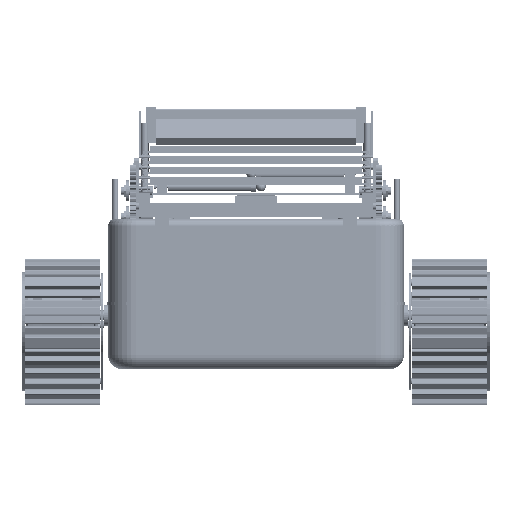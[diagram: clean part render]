
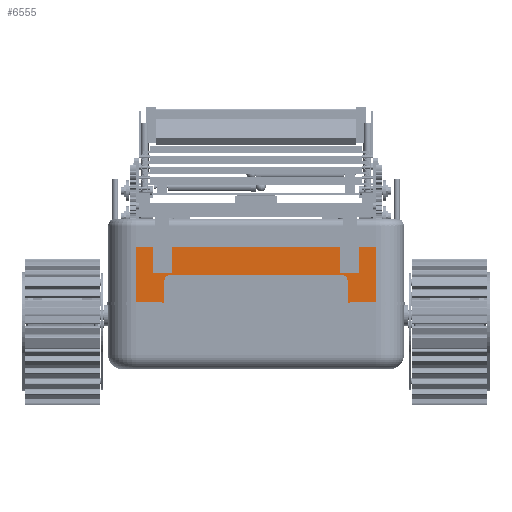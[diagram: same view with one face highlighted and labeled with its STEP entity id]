
A CAD part, left-side view. The second image highlights one B-rep face of the part: STEP entity #6555.
In plain terms, the highlighted planar face has unit normal (-1, 0, 0).
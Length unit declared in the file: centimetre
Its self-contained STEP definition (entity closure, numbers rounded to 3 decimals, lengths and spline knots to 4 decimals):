
#6555 = ADVANCED_FACE('',(#6556),#6570,.F.);
#6556 = FACE_BOUND('',#6557,.F.);
#6557 = EDGE_LOOP('',(#6558,#6593,#6619,#6645,#6671,#6697,#6723,#6751));
#6558 = ORIENTED_EDGE('',*,*,#6559,.F.);
#6559 = EDGE_CURVE('',#6560,#6562,#6564,.T.);
#6560 = VERTEX_POINT('',#6561);
#6561 = CARTESIAN_POINT('',(4.,-51.,43.));
#6562 = VERTEX_POINT('',#6563);
#6563 = CARTESIAN_POINT('',(4.,-51.,67.));
#6564 = SURFACE_CURVE('',#6565,(#6569,#6581),.PCURVE_S1.);
#6565 = LINE('',#6566,#6567);
#6566 = CARTESIAN_POINT('',(4.,-51.,15.));
#6567 = VECTOR('',#6568,0.1);
#6568 = DIRECTION('',(0.,0.,1.));
#6569 = PCURVE('',#6570,#6575);
#6570 = PLANE('',#6571);
#6571 = AXIS2_PLACEMENT_3D('',#6572,#6573,#6574);
#6572 = CARTESIAN_POINT('',(4.,-63.,15.));
#6573 = DIRECTION('',(1.,0.,0.));
#6574 = DIRECTION('',(0.,0.,1.));
#6575 = DEFINITIONAL_REPRESENTATION('',(#6576),#6580);
#6576 = LINE('',#6577,#6578);
#6577 = CARTESIAN_POINT('',(0.,-12.));
#6578 = VECTOR('',#6579,1.);
#6579 = DIRECTION('',(1.,0.));
#6580 = ( GEOMETRIC_REPRESENTATION_CONTEXT(2) 
PARAMETRIC_REPRESENTATION_CONTEXT() REPRESENTATION_CONTEXT('2D SPACE',''
  ) );
#6581 = PCURVE('',#6582,#6587);
#6582 = CYLINDRICAL_SURFACE('',#6583,12.);
#6583 = AXIS2_PLACEMENT_3D('',#6584,#6585,#6586);
#6584 = CARTESIAN_POINT('',(16.,-51.,15.));
#6585 = DIRECTION('',(0.,0.,1.));
#6586 = DIRECTION('',(-1.,-0.,0.));
#6587 = DEFINITIONAL_REPRESENTATION('',(#6588),#6592);
#6588 = LINE('',#6589,#6590);
#6589 = CARTESIAN_POINT('',(0.,0.));
#6590 = VECTOR('',#6591,1.);
#6591 = DIRECTION('',(0.,1.));
#6592 = ( GEOMETRIC_REPRESENTATION_CONTEXT(2) 
PARAMETRIC_REPRESENTATION_CONTEXT() REPRESENTATION_CONTEXT('2D SPACE',''
  ) );
#6593 = ORIENTED_EDGE('',*,*,#6594,.F.);
#6594 = EDGE_CURVE('',#6595,#6560,#6597,.T.);
#6595 = VERTEX_POINT('',#6596);
#6596 = CARTESIAN_POINT('',(4.,-38.,43.));
#6597 = SURFACE_CURVE('',#6598,(#6602,#6608),.PCURVE_S1.);
#6598 = LINE('',#6599,#6600);
#6599 = CARTESIAN_POINT('',(4.,-66.5,43.));
#6600 = VECTOR('',#6601,0.1);
#6601 = DIRECTION('',(0.,-1.,0.));
#6602 = PCURVE('',#6570,#6603);
#6603 = DEFINITIONAL_REPRESENTATION('',(#6604),#6607);
#6604 = B_SPLINE_CURVE_WITH_KNOTS('',1,(#6605,#6606),.UNSPECIFIED.,.F.,
  .F.,(2,2),(-1175.,-155.),.PIECEWISE_BEZIER_KNOTS.);
#6605 = CARTESIAN_POINT('',(28.,-114.));
#6606 = CARTESIAN_POINT('',(28.,-12.));
#6607 = ( GEOMETRIC_REPRESENTATION_CONTEXT(2) 
PARAMETRIC_REPRESENTATION_CONTEXT() REPRESENTATION_CONTEXT('2D SPACE',''
  ) );
#6608 = PCURVE('',#6609,#6614);
#6609 = PLANE('',#6610);
#6610 = AXIS2_PLACEMENT_3D('',#6611,#6612,#6613);
#6611 = CARTESIAN_POINT('',(0.,-70.,43.));
#6612 = DIRECTION('',(0.,0.,1.));
#6613 = DIRECTION('',(1.,0.,0.));
#6614 = DEFINITIONAL_REPRESENTATION('',(#6615),#6618);
#6615 = B_SPLINE_CURVE_WITH_KNOTS('',1,(#6616,#6617),.UNSPECIFIED.,.F.,
  .F.,(2,2),(-1175.,-155.),.PIECEWISE_BEZIER_KNOTS.);
#6616 = CARTESIAN_POINT('',(4.,121.));
#6617 = CARTESIAN_POINT('',(4.,19.));
#6618 = ( GEOMETRIC_REPRESENTATION_CONTEXT(2) 
PARAMETRIC_REPRESENTATION_CONTEXT() REPRESENTATION_CONTEXT('2D SPACE',''
  ) );
#6619 = ORIENTED_EDGE('',*,*,#6620,.T.);
#6620 = EDGE_CURVE('',#6595,#6621,#6623,.T.);
#6621 = VERTEX_POINT('',#6622);
#6622 = CARTESIAN_POINT('',(4.,-38.,54.));
#6623 = SURFACE_CURVE('',#6624,(#6628,#6634),.PCURVE_S1.);
#6624 = LINE('',#6625,#6626);
#6625 = CARTESIAN_POINT('',(4.,-38.,22.5));
#6626 = VECTOR('',#6627,0.1);
#6627 = DIRECTION('',(0.,0.,1.));
#6628 = PCURVE('',#6570,#6629);
#6629 = DEFINITIONAL_REPRESENTATION('',(#6630),#6633);
#6630 = B_SPLINE_CURVE_WITH_KNOTS('',1,(#6631,#6632),.UNSPECIFIED.,.F.,
  .F.,(2,2),(75.,315.),.PIECEWISE_BEZIER_KNOTS.);
#6631 = CARTESIAN_POINT('',(15.,-25.));
#6632 = CARTESIAN_POINT('',(39.,-25.));
#6633 = ( GEOMETRIC_REPRESENTATION_CONTEXT(2) 
PARAMETRIC_REPRESENTATION_CONTEXT() REPRESENTATION_CONTEXT('2D SPACE',''
  ) );
#6634 = PCURVE('',#6635,#6640);
#6635 = PLANE('',#6636);
#6636 = AXIS2_PLACEMENT_3D('',#6637,#6638,#6639);
#6637 = CARTESIAN_POINT('',(3.5,-38.,30.));
#6638 = DIRECTION('',(0.,1.,0.));
#6639 = DIRECTION('',(0.,0.,1.));
#6640 = DEFINITIONAL_REPRESENTATION('',(#6641),#6644);
#6641 = B_SPLINE_CURVE_WITH_KNOTS('',1,(#6642,#6643),.UNSPECIFIED.,.F.,
  .F.,(2,2),(75.,315.),.PIECEWISE_BEZIER_KNOTS.);
#6642 = CARTESIAN_POINT('',(0.,0.5));
#6643 = CARTESIAN_POINT('',(24.,0.5));
#6644 = ( GEOMETRIC_REPRESENTATION_CONTEXT(2) 
PARAMETRIC_REPRESENTATION_CONTEXT() REPRESENTATION_CONTEXT('2D SPACE',''
  ) );
#6645 = ORIENTED_EDGE('',*,*,#6646,.F.);
#6646 = EDGE_CURVE('',#6647,#6621,#6649,.T.);
#6647 = VERTEX_POINT('',#6648);
#6648 = CARTESIAN_POINT('',(4.,38.,54.));
#6649 = SURFACE_CURVE('',#6650,(#6654,#6660),.PCURVE_S1.);
#6650 = LINE('',#6651,#6652);
#6651 = CARTESIAN_POINT('',(4.,-50.5,54.));
#6652 = VECTOR('',#6653,0.1);
#6653 = DIRECTION('',(0.,-1.,0.));
#6654 = PCURVE('',#6570,#6655);
#6655 = DEFINITIONAL_REPRESENTATION('',(#6656),#6659);
#6656 = B_SPLINE_CURVE_WITH_KNOTS('',1,(#6657,#6658),.UNSPECIFIED.,.F.,
  .F.,(2,2),(-885.,-125.),.PIECEWISE_BEZIER_KNOTS.);
#6657 = CARTESIAN_POINT('',(39.,-101.));
#6658 = CARTESIAN_POINT('',(39.,-25.));
#6659 = ( GEOMETRIC_REPRESENTATION_CONTEXT(2) 
PARAMETRIC_REPRESENTATION_CONTEXT() REPRESENTATION_CONTEXT('2D SPACE',''
  ) );
#6660 = PCURVE('',#6661,#6666);
#6661 = PLANE('',#6662);
#6662 = AXIS2_PLACEMENT_3D('',#6663,#6664,#6665);
#6663 = CARTESIAN_POINT('',(3.5,-38.,54.));
#6664 = DIRECTION('',(0.,0.,1.));
#6665 = DIRECTION('',(1.,0.,0.));
#6666 = DEFINITIONAL_REPRESENTATION('',(#6667),#6670);
#6667 = B_SPLINE_CURVE_WITH_KNOTS('',1,(#6668,#6669),.UNSPECIFIED.,.F.,
  .F.,(2,2),(-885.,-125.),.PIECEWISE_BEZIER_KNOTS.);
#6668 = CARTESIAN_POINT('',(0.5,76.));
#6669 = CARTESIAN_POINT('',(0.5,0.));
#6670 = ( GEOMETRIC_REPRESENTATION_CONTEXT(2) 
PARAMETRIC_REPRESENTATION_CONTEXT() REPRESENTATION_CONTEXT('2D SPACE',''
  ) );
#6671 = ORIENTED_EDGE('',*,*,#6672,.F.);
#6672 = EDGE_CURVE('',#6673,#6647,#6675,.T.);
#6673 = VERTEX_POINT('',#6674);
#6674 = CARTESIAN_POINT('',(4.,38.,43.));
#6675 = SURFACE_CURVE('',#6676,(#6680,#6686),.PCURVE_S1.);
#6676 = LINE('',#6677,#6678);
#6677 = CARTESIAN_POINT('',(4.,38.,22.5));
#6678 = VECTOR('',#6679,0.1);
#6679 = DIRECTION('',(0.,0.,1.));
#6680 = PCURVE('',#6570,#6681);
#6681 = DEFINITIONAL_REPRESENTATION('',(#6682),#6685);
#6682 = B_SPLINE_CURVE_WITH_KNOTS('',1,(#6683,#6684),.UNSPECIFIED.,.F.,
  .F.,(2,2),(75.,315.),.PIECEWISE_BEZIER_KNOTS.);
#6683 = CARTESIAN_POINT('',(15.,-101.));
#6684 = CARTESIAN_POINT('',(39.,-101.));
#6685 = ( GEOMETRIC_REPRESENTATION_CONTEXT(2) 
PARAMETRIC_REPRESENTATION_CONTEXT() REPRESENTATION_CONTEXT('2D SPACE',''
  ) );
#6686 = PCURVE('',#6687,#6692);
#6687 = PLANE('',#6688);
#6688 = AXIS2_PLACEMENT_3D('',#6689,#6690,#6691);
#6689 = CARTESIAN_POINT('',(3.5,38.,30.));
#6690 = DIRECTION('',(0.,1.,0.));
#6691 = DIRECTION('',(0.,0.,1.));
#6692 = DEFINITIONAL_REPRESENTATION('',(#6693),#6696);
#6693 = B_SPLINE_CURVE_WITH_KNOTS('',1,(#6694,#6695),.UNSPECIFIED.,.F.,
  .F.,(2,2),(75.,315.),.PIECEWISE_BEZIER_KNOTS.);
#6694 = CARTESIAN_POINT('',(0.,0.5));
#6695 = CARTESIAN_POINT('',(24.,0.5));
#6696 = ( GEOMETRIC_REPRESENTATION_CONTEXT(2) 
PARAMETRIC_REPRESENTATION_CONTEXT() REPRESENTATION_CONTEXT('2D SPACE',''
  ) );
#6697 = ORIENTED_EDGE('',*,*,#6698,.F.);
#6698 = EDGE_CURVE('',#6699,#6673,#6701,.T.);
#6699 = VERTEX_POINT('',#6700);
#6700 = CARTESIAN_POINT('',(4.,51.,43.));
#6701 = SURFACE_CURVE('',#6702,(#6706,#6712),.PCURVE_S1.);
#6702 = LINE('',#6703,#6704);
#6703 = CARTESIAN_POINT('',(4.,-66.5,43.));
#6704 = VECTOR('',#6705,0.1);
#6705 = DIRECTION('',(0.,-1.,0.));
#6706 = PCURVE('',#6570,#6707);
#6707 = DEFINITIONAL_REPRESENTATION('',(#6708),#6711);
#6708 = B_SPLINE_CURVE_WITH_KNOTS('',1,(#6709,#6710),.UNSPECIFIED.,.F.,
  .F.,(2,2),(-1175.,-155.),.PIECEWISE_BEZIER_KNOTS.);
#6709 = CARTESIAN_POINT('',(28.,-114.));
#6710 = CARTESIAN_POINT('',(28.,-12.));
#6711 = ( GEOMETRIC_REPRESENTATION_CONTEXT(2) 
PARAMETRIC_REPRESENTATION_CONTEXT() REPRESENTATION_CONTEXT('2D SPACE',''
  ) );
#6712 = PCURVE('',#6713,#6718);
#6713 = PLANE('',#6714);
#6714 = AXIS2_PLACEMENT_3D('',#6715,#6716,#6717);
#6715 = CARTESIAN_POINT('',(0.,-70.,43.));
#6716 = DIRECTION('',(0.,0.,1.));
#6717 = DIRECTION('',(1.,0.,0.));
#6718 = DEFINITIONAL_REPRESENTATION('',(#6719),#6722);
#6719 = B_SPLINE_CURVE_WITH_KNOTS('',1,(#6720,#6721),.UNSPECIFIED.,.F.,
  .F.,(2,2),(-1175.,-155.),.PIECEWISE_BEZIER_KNOTS.);
#6720 = CARTESIAN_POINT('',(4.,121.));
#6721 = CARTESIAN_POINT('',(4.,19.));
#6722 = ( GEOMETRIC_REPRESENTATION_CONTEXT(2) 
PARAMETRIC_REPRESENTATION_CONTEXT() REPRESENTATION_CONTEXT('2D SPACE',''
  ) );
#6723 = ORIENTED_EDGE('',*,*,#6724,.T.);
#6724 = EDGE_CURVE('',#6699,#6725,#6727,.T.);
#6725 = VERTEX_POINT('',#6726);
#6726 = CARTESIAN_POINT('',(4.,51.,67.));
#6727 = SURFACE_CURVE('',#6728,(#6732,#6739),.PCURVE_S1.);
#6728 = LINE('',#6729,#6730);
#6729 = CARTESIAN_POINT('',(4.,51.,15.));
#6730 = VECTOR('',#6731,0.1);
#6731 = DIRECTION('',(0.,0.,1.));
#6732 = PCURVE('',#6570,#6733);
#6733 = DEFINITIONAL_REPRESENTATION('',(#6734),#6738);
#6734 = LINE('',#6735,#6736);
#6735 = CARTESIAN_POINT('',(0.,-114.));
#6736 = VECTOR('',#6737,1.);
#6737 = DIRECTION('',(1.,0.));
#6738 = ( GEOMETRIC_REPRESENTATION_CONTEXT(2) 
PARAMETRIC_REPRESENTATION_CONTEXT() REPRESENTATION_CONTEXT('2D SPACE',''
  ) );
#6739 = PCURVE('',#6740,#6745);
#6740 = CYLINDRICAL_SURFACE('',#6741,12.);
#6741 = AXIS2_PLACEMENT_3D('',#6742,#6743,#6744);
#6742 = CARTESIAN_POINT('',(16.,51.,15.));
#6743 = DIRECTION('',(0.,0.,1.));
#6744 = DIRECTION('',(-1.,-0.,0.));
#6745 = DEFINITIONAL_REPRESENTATION('',(#6746),#6750);
#6746 = LINE('',#6747,#6748);
#6747 = CARTESIAN_POINT('',(-0.,0.));
#6748 = VECTOR('',#6749,1.);
#6749 = DIRECTION('',(-0.,1.));
#6750 = ( GEOMETRIC_REPRESENTATION_CONTEXT(2) 
PARAMETRIC_REPRESENTATION_CONTEXT() REPRESENTATION_CONTEXT('2D SPACE',''
  ) );
#6751 = ORIENTED_EDGE('',*,*,#6752,.F.);
#6752 = EDGE_CURVE('',#6562,#6725,#6753,.T.);
#6753 = SURFACE_CURVE('',#6754,(#6758,#6765),.PCURVE_S1.);
#6754 = LINE('',#6755,#6756);
#6755 = CARTESIAN_POINT('',(4.,-63.,67.));
#6756 = VECTOR('',#6757,0.1);
#6757 = DIRECTION('',(0.,1.,0.));
#6758 = PCURVE('',#6570,#6759);
#6759 = DEFINITIONAL_REPRESENTATION('',(#6760),#6764);
#6760 = LINE('',#6761,#6762);
#6761 = CARTESIAN_POINT('',(52.,0.));
#6762 = VECTOR('',#6763,1.);
#6763 = DIRECTION('',(0.,-1.));
#6764 = ( GEOMETRIC_REPRESENTATION_CONTEXT(2) 
PARAMETRIC_REPRESENTATION_CONTEXT() REPRESENTATION_CONTEXT('2D SPACE',''
  ) );
#6765 = PCURVE('',#6766,#6771);
#6766 = PLANE('',#6767);
#6767 = AXIS2_PLACEMENT_3D('',#6768,#6769,#6770);
#6768 = CARTESIAN_POINT('',(4.,-63.,67.));
#6769 = DIRECTION('',(0.,0.,1.));
#6770 = DIRECTION('',(1.,0.,0.));
#6771 = DEFINITIONAL_REPRESENTATION('',(#6772),#6776);
#6772 = LINE('',#6773,#6774);
#6773 = CARTESIAN_POINT('',(0.,0.));
#6774 = VECTOR('',#6775,1.);
#6775 = DIRECTION('',(0.,1.));
#6776 = ( GEOMETRIC_REPRESENTATION_CONTEXT(2) 
PARAMETRIC_REPRESENTATION_CONTEXT() REPRESENTATION_CONTEXT('2D SPACE',''
  ) );
